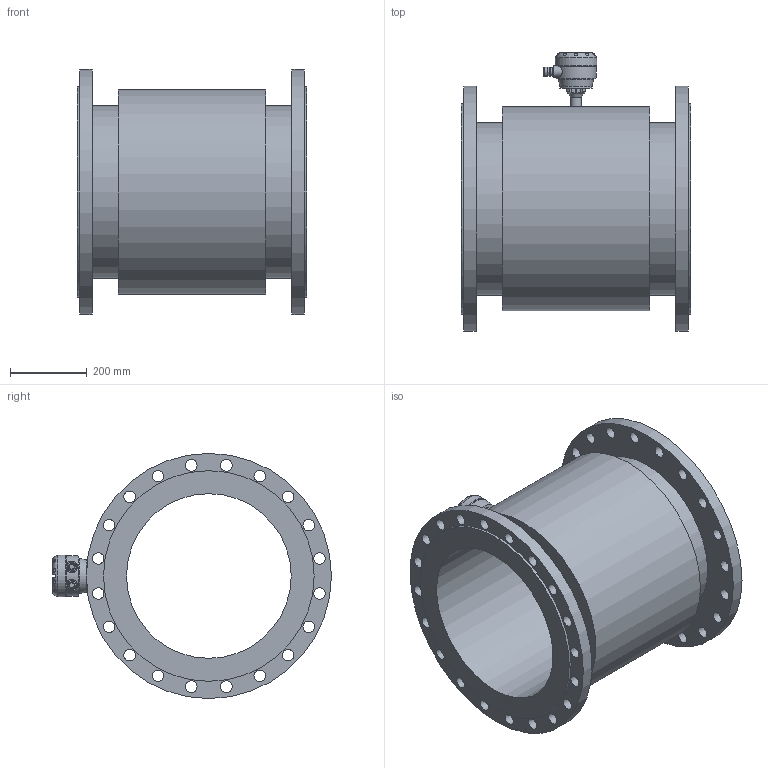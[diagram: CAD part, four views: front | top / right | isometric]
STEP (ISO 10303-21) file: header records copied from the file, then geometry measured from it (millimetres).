
FILE_DESCRIPTION (( 'STEP AP203' ), '1' );
FILE_NAME ('KROHNE_OPTIFLUX_2-4000W_DIN2633_DN450_PN16.STEP', '2011-04-26T11:24:49', ( '' ), ( '' ), 'SwSTEP 2.0', 'SolidWorks 2010', '' );
FILE_SCHEMA (( 'CONFIG_CONTROL_DESIGN' ));
Length unit declared in the file: millimetre
Products named in the file (1): KROHNE_OPTIFLUX_2-4000W_DIN2633_DN450_PN16
Bounding box: 600 x 727.99 x 640 mm (x, y, z)
Volume: 44435589 mm3; surface area: 2775710.1 mm2
Topology: 14 solids, 14 shells, 367 faces, 931 edges, 614 vertices
Faces by surface type: plane 158, cylinder 119, bspline 53, torus 18, sphere 13, cone 6
Full cylindrical faces by diameter (mm): 4 x4, 6.6 x8, 13 x2, 20 x2, 23.5 x4, 29 x1, 30 x42, 84 x2, 109 x1, 430 x1, 450 x2, 533 x1, 550 x2, 640 x2
Entity records: 14795 total; most frequent: CARTESIAN_POINT 6616, DIRECTION 1557, ORIENTED_EDGE 1554, EDGE_CURVE 777, EDGE_LOOP 598, AXIS2_PLACEMENT_3D 597, VERTEX_POINT 561, FACE_OUTER_BOUND 458
